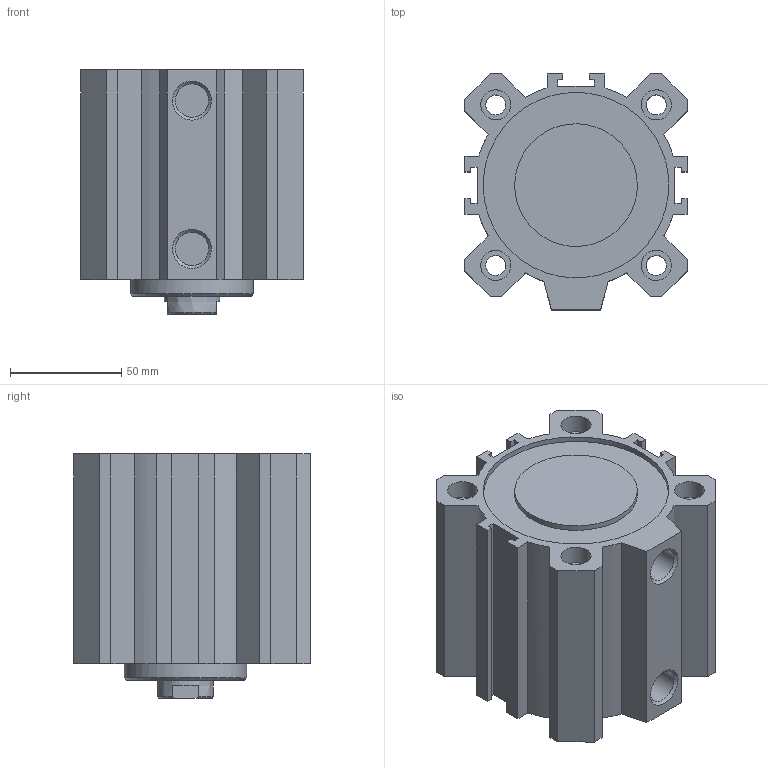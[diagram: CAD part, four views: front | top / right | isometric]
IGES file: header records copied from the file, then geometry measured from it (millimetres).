
Global section: file name: 1511_80_0045; native system: Autodesk Inventor 2014; preprocessor: unknown; author: A. Manieri; date: 20160824.142206; units: millimetre
Bounding box: 100 x 106 x 109.5 mm (x, y, z)
Volume: 567370.6 mm3; surface area: 129596.6 mm2
Topology: 2 solids, 2 shells, 119 faces, 307 edges, 210 vertices
Faces by surface type: bspline 119
